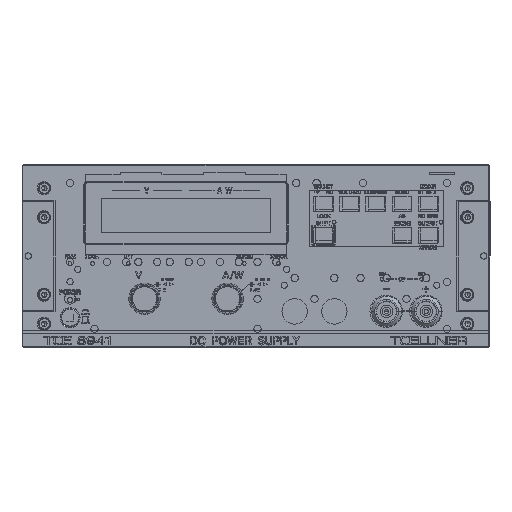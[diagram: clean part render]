
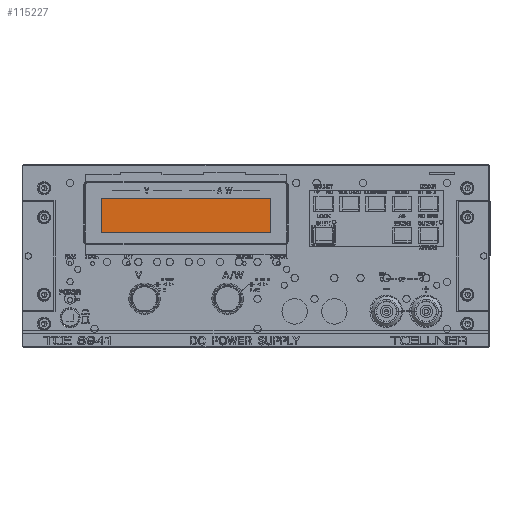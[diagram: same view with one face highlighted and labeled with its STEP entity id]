
A CAD part, top view. The second image highlights one B-rep face of the part: STEP entity #115227.
In plain terms, the highlighted planar face has unit normal (0, 0, 1).
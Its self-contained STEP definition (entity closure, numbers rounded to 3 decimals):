
#8501 = DIRECTION ( 'NONE',  ( 0., 1., 0. ) ) ;
#8986 = DIRECTION ( 'NONE',  ( 0., 0., 1. ) ) ;
#12558 = ORIENTED_EDGE ( 'NONE', *, *, #36393, .T. ) ;
#14363 = CARTESIAN_POINT ( 'NONE',  ( -90.288, 27.625, 620.451 ) ) ;
#15768 = LINE ( 'NONE', #27570, #18680 ) ;
#16904 = CARTESIAN_POINT ( 'NONE',  ( -7.288, 36.925, 620.451 ) ) ;
#18680 = VECTOR ( 'NONE', #86060, 1000. ) ;
#22247 = AXIS2_PLACEMENT_3D ( 'NONE', #101647, #8986, #111605 ) ;
#24104 = VECTOR ( 'NONE', #102247, 1000. ) ;
#27323 = EDGE_CURVE ( 'NONE', #94206, #48140, #80626, .T. ) ;
#27570 = CARTESIAN_POINT ( 'NONE',  ( -48.788, 18.325, 620.451 ) ) ;
#27817 = CARTESIAN_POINT ( 'NONE',  ( -48.788, 36.925, 620.451 ) ) ;
#29890 = LINE ( 'NONE', #27817, #24104 ) ;
#30698 = CARTESIAN_POINT ( 'NONE',  ( -7.288, 27.625, 620.451 ) ) ;
#33986 = VECTOR ( 'NONE', #8501, 1000. ) ;
#36393 = EDGE_CURVE ( 'NONE', #50182, #94206, #29890, .T. ) ;
#43914 = CARTESIAN_POINT ( 'NONE',  ( -7.288, 18.325, 620.451 ) ) ;
#48140 = VERTEX_POINT ( 'NONE', #87696 ) ;
#48677 = LINE ( 'NONE', #30698, #33986 ) ;
#49022 = CARTESIAN_POINT ( 'NONE',  ( -90.288, 36.925, 620.451 ) ) ;
#50182 = VERTEX_POINT ( 'NONE', #16904 ) ;
#55372 = EDGE_CURVE ( 'NONE', #48140, #113887, #15768, .T. ) ;
#58400 = ORIENTED_EDGE ( 'NONE', *, *, #102945, .T. ) ;
#63622 = EDGE_LOOP ( 'NONE', ( #78649, #119365, #58400, #12558 ) ) ;
#66897 = FACE_OUTER_BOUND ( 'NONE', #63622, .T. ) ;
#68452 = DIRECTION ( 'NONE',  ( 0., -1., 0. ) ) ;
#78649 = ORIENTED_EDGE ( 'NONE', *, *, #27323, .T. ) ;
#80626 = LINE ( 'NONE', #14363, #84260 ) ;
#81845 = PLANE ( 'NONE',  #22247 ) ;
#84260 = VECTOR ( 'NONE', #68452, 1000. ) ;
#86060 = DIRECTION ( 'NONE',  ( 1., 0., 0. ) ) ;
#87696 = CARTESIAN_POINT ( 'NONE',  ( -90.288, 18.325, 620.451 ) ) ;
#94206 = VERTEX_POINT ( 'NONE', #49022 ) ;
#101647 = CARTESIAN_POINT ( 'NONE',  ( -48.788, 27.625, 620.451 ) ) ;
#102247 = DIRECTION ( 'NONE',  ( -1., 0., 0. ) ) ;
#102945 = EDGE_CURVE ( 'NONE', #113887, #50182, #48677, .T. ) ;
#111605 = DIRECTION ( 'NONE',  ( 1., 0., 0. ) ) ;
#113887 = VERTEX_POINT ( 'NONE', #43914 ) ;
#115227 = ADVANCED_FACE ( 'NONE', ( #66897 ), #81845, .T. ) ;
#119365 = ORIENTED_EDGE ( 'NONE', *, *, #55372, .T. ) ;
